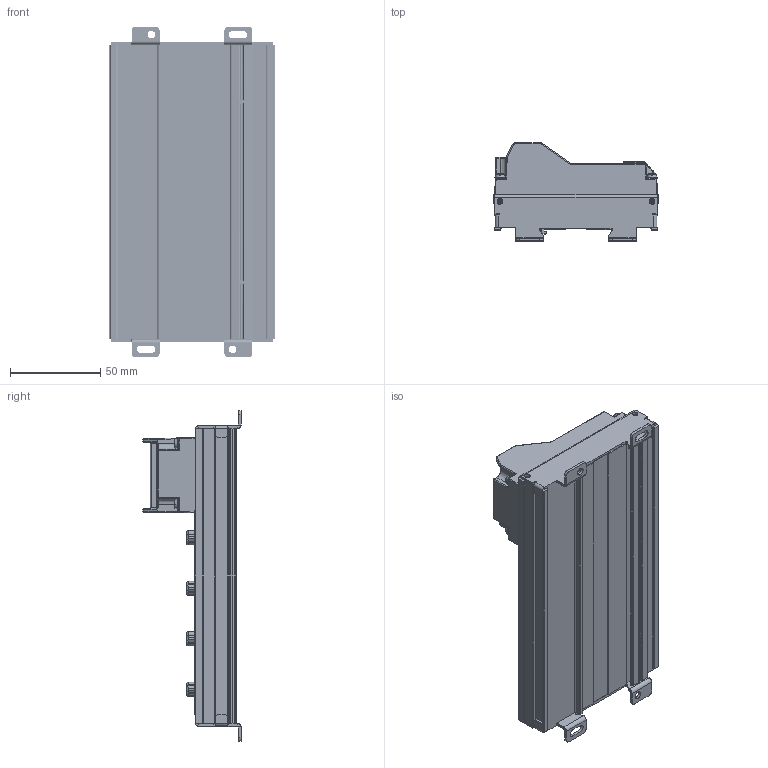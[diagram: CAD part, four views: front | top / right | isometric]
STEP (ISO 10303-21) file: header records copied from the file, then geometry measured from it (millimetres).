
FILE_DESCRIPTION (( 'STEP AP203' ), '1' );
FILE_NAME ('009B92.STEP', '2024-05-30T05:27:35', ( 'L' ), ( '' ), 'SwSTEP 2.0', 'SolidWorks 2019', '' );
FILE_SCHEMA (( 'CONFIG_CONTROL_DESIGN' ));
Products named in the file (1): 009B92
Bounding box: 92 x 54.4 x 183.5 mm (x, y, z)
Volume: 348943.3 mm3; surface area: 91050.3 mm2
Topology: 1 solids, 15 shells, 4871 faces, 13279 edges, 8497 vertices
Faces by surface type: plane 2669, cylinder 1523, cone 322, bspline 297, torus 46, sphere 14
Entity records: 187284 total; most frequent: CARTESIAN_POINT 68399, ORIENTED_EDGE 26500, DIRECTION 22512, EDGE_CURVE 13250, LINE 8500, VECTOR 8500, VERTEX_POINT 8492, AXIS2_PLACEMENT_3D 7006
